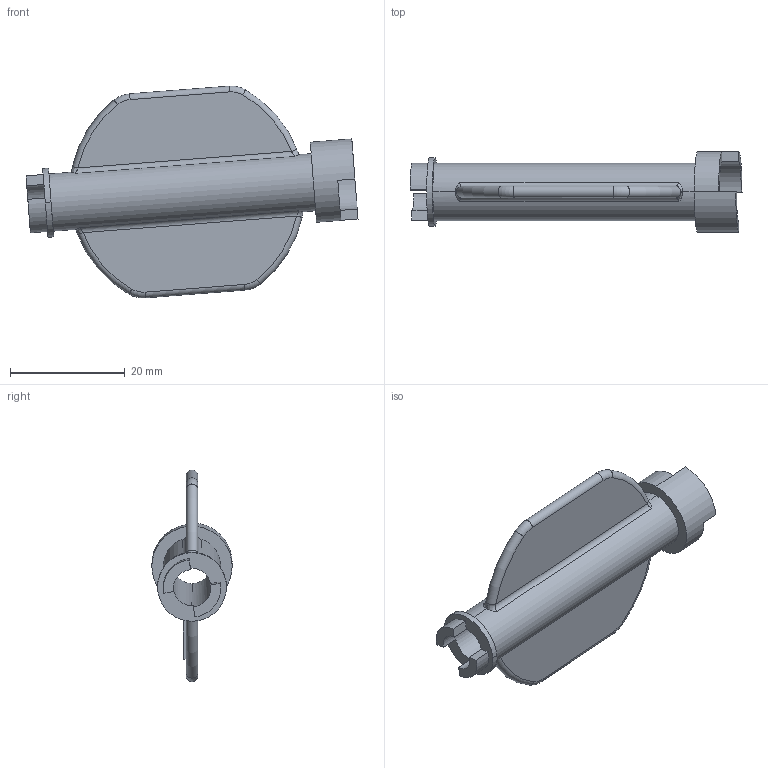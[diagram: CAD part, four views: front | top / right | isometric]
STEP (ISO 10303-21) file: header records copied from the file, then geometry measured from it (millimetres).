
FILE_DESCRIPTION((''),'2;1');
FILE_NAME('0000237105_PRT','2025-11-12T18:33:20',('Wyndorps'),(''),'CREO PARAMETRIC BY PTC INC, 2025010','CREO PARAMETRIC BY PTC INC, 2025010','');
FILE_SCHEMA(('CONFIG_CONTROL_DESIGN'));
Length unit declared in the file: millimetre
Products named in the file (1): 0000237105_PRT
Bounding box: 57.87 x 14 x 36.91 mm (x, y, z)
Volume: 4460.2 mm3; surface area: 4956.4 mm2
Topology: 1 solids, 1 shells, 111 faces, 287 edges, 186 vertices
Faces by surface type: plane 56, cylinder 22, extrusion 17, torus 8, bspline 8
Entity records: 4088 total; most frequent: CARTESIAN_POINT 1437, ORIENTED_EDGE 574, DIRECTION 474, EDGE_CURVE 287, VERTEX_POINT 186, VECTOR 174, LINE 157, AXIS2_PLACEMENT_3D 150
